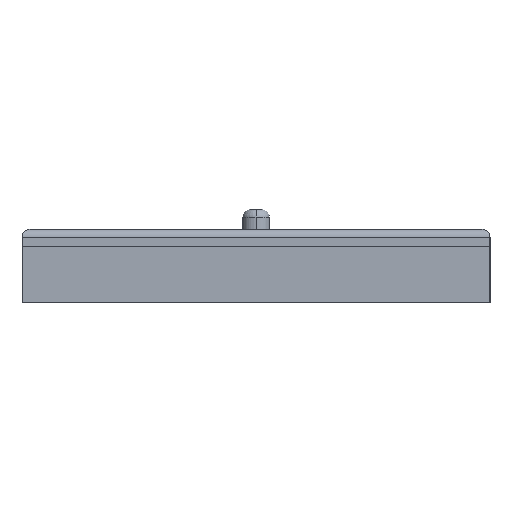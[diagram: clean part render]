
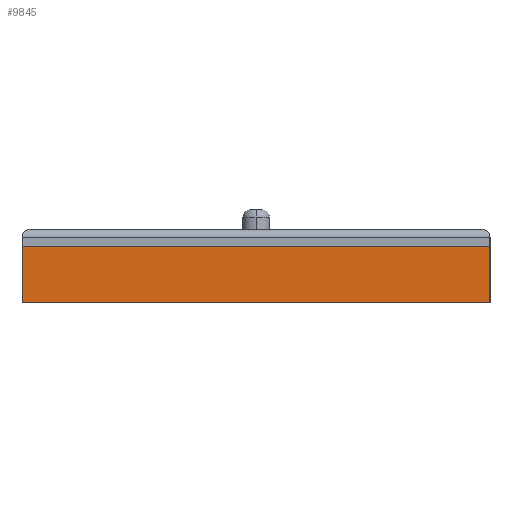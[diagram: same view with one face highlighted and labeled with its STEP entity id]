
A CAD part, left-side view. The second image highlights one B-rep face of the part: STEP entity #9845.
In plain terms, the highlighted planar face has unit normal (-1, 0, 0).
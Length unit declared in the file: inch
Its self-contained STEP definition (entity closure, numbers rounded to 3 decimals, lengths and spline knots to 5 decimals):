
#3661 = CARTESIAN_POINT ( 'NONE',  ( 0.906, 8.75, -0.32 ) ) ;
#3663 = DIRECTION ( 'NONE',  ( 0., 0., -1. ) ) ;
#3686 = CARTESIAN_POINT ( 'NONE',  ( 0.906, 8.75, -1.37 ) ) ;
#3695 = CARTESIAN_POINT ( 'NONE',  ( 0.906, 0., -0.32 ) ) ;
#3696 = DIRECTION ( 'NONE',  ( 0., 0., -1. ) ) ;
#3709 = DIRECTION ( 'NONE',  ( 0., -1., 0. ) ) ;
#3710 = CARTESIAN_POINT ( 'NONE',  ( 0.906, 8.75, -0.32 ) ) ;
#3711 = DIRECTION ( 'NONE',  ( 0., -1., 0. ) ) ;
#5158 = AXIS2_PLACEMENT_3D ( 'NONE', #8378, #8388, #8389 ) ;
#6766 = VERTEX_POINT ( 'NONE', #7931 ) ;
#6774 = VERTEX_POINT ( 'NONE', #7935 ) ;
#6793 = VERTEX_POINT ( 'NONE', #7946 ) ;
#6806 = VERTEX_POINT ( 'NONE', #7953 ) ;
#7931 = CARTESIAN_POINT ( 'NONE',  ( 0.906, 0., -0.32 ) ) ;
#7935 = CARTESIAN_POINT ( 'NONE',  ( 0.906, 8.75, -1.37 ) ) ;
#7946 = CARTESIAN_POINT ( 'NONE',  ( 0.906, 0., -1.37 ) ) ;
#7953 = CARTESIAN_POINT ( 'NONE',  ( 0.906, 8.75, -0.32 ) ) ;
#8378 = CARTESIAN_POINT ( 'NONE',  ( 0.906, 8.75, -0.32 ) ) ;
#8383 = PLANE ( 'NONE',  #5158 ) ;
#8388 = DIRECTION ( 'NONE',  ( 1., 0., 0. ) ) ;
#8389 = DIRECTION ( 'NONE',  ( 0., 1., 0. ) ) ;
#9845 = ADVANCED_FACE ( 'NONE', ( #9924 ), #8383, .F. ) ;
#9924 = FACE_OUTER_BOUND ( 'NONE', #12052, .T. ) ;
#10318 = LINE ( 'NONE', #3661, #10649 ) ;
#10649 = VECTOR ( 'NONE', #3663, 39.37008 ) ;
#10681 = LINE ( 'NONE', #3695, #10682 ) ;
#10682 = VECTOR ( 'NONE', #3696, 39.37008 ) ;
#10687 = LINE ( 'NONE', #3686, #10691 ) ;
#10691 = VECTOR ( 'NONE', #3709, 39.37008 ) ;
#10693 = LINE ( 'NONE', #3710, #10694 ) ;
#10694 = VECTOR ( 'NONE', #3711, 39.37008 ) ;
#11154 = EDGE_CURVE ( 'NONE', #6806, #6774, #10318, .T. ) ;
#11170 = EDGE_CURVE ( 'NONE', #6766, #6793, #10681, .T. ) ;
#11176 = EDGE_CURVE ( 'NONE', #6774, #6793, #10687, .T. ) ;
#11177 = EDGE_CURVE ( 'NONE', #6806, #6766, #10693, .T. ) ;
#11685 = ORIENTED_EDGE ( 'NONE', *, *, #11176, .T. ) ;
#11686 = ORIENTED_EDGE ( 'NONE', *, *, #11170, .F. ) ;
#11687 = ORIENTED_EDGE ( 'NONE', *, *, #11177, .F. ) ;
#11688 = ORIENTED_EDGE ( 'NONE', *, *, #11154, .T. ) ;
#12052 = EDGE_LOOP ( 'NONE', ( #11685, #11686, #11687, #11688 ) ) ;
